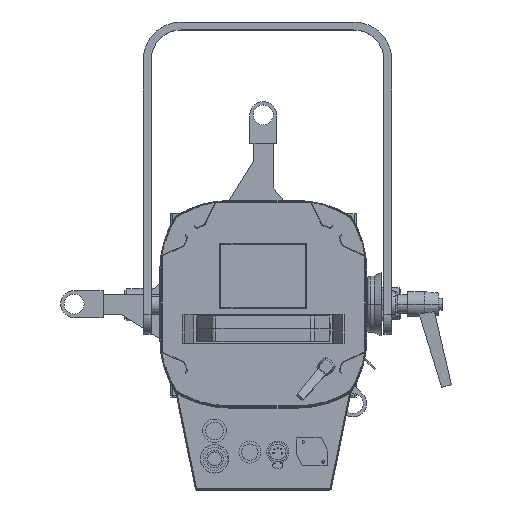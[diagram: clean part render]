
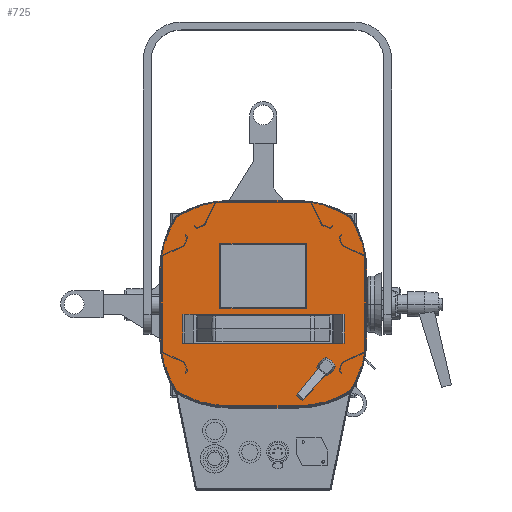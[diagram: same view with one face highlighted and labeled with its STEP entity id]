
A CAD part, top view. The second image highlights one B-rep face of the part: STEP entity #725.
In plain terms, the highlighted planar face has unit normal (0, 0, 1).
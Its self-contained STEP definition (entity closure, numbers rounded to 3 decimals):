
#152 = VERTEX_POINT ( 'NONE', #7696 ) ;
#234 = AXIS2_PLACEMENT_3D ( 'NONE', #22896, #818, #10650 ) ;
#435 = EDGE_CURVE ( 'NONE', #27005, #16409, #22929, .T. ) ;
#448 = DIRECTION ( 'NONE',  ( 1., 0., 0. ) ) ;
#713 = DIRECTION ( 'NONE',  ( -1., 0., 0. ) ) ;
#725 = ADVANCED_FACE ( 'NONE', ( #27910, #22736 ), #31847, .F. ) ;
#816 = VERTEX_POINT ( 'NONE', #21551 ) ;
#818 = DIRECTION ( 'NONE',  ( 0., 0., -1. ) ) ;
#1223 = DIRECTION ( 'NONE',  ( 1., 0., 0. ) ) ;
#1467 = DIRECTION ( 'NONE',  ( 1., 0., 0. ) ) ;
#1886 = EDGE_CURVE ( 'NONE', #16409, #28842, #31120, .T. ) ;
#2003 = EDGE_CURVE ( 'NONE', #14155, #29782, #9190, .T. ) ;
#2128 = CARTESIAN_POINT ( 'NONE',  ( -33., 0., 227.1 ) ) ;
#2235 = ORIENTED_EDGE ( 'NONE', *, *, #6541, .F. ) ;
#2279 = EDGE_CURVE ( 'NONE', #152, #10225, #4176, .T. ) ;
#2707 = LINE ( 'NONE', #21883, #7850 ) ;
#2916 = CARTESIAN_POINT ( 'NONE',  ( 88.019, -88.019, 227.1 ) ) ;
#3214 = DIRECTION ( 'NONE',  ( 0., 1., 0. ) ) ;
#3324 = CARTESIAN_POINT ( 'NONE',  ( -103.8, -33., 227.1 ) ) ;
#3463 = CARTESIAN_POINT ( 'NONE',  ( 2.5, 60., 227.1 ) ) ;
#3632 = CARTESIAN_POINT ( 'NONE',  ( 42.5, -4., 227.1 ) ) ;
#3653 = LINE ( 'NONE', #13465, #20105 ) ;
#3745 = DIRECTION ( 'NONE',  ( -1., 0., 0. ) ) ;
#4011 = LINE ( 'NONE', #22853, #15275 ) ;
#4176 = LINE ( 'NONE', #13836, #13115 ) ;
#4178 = CIRCLE ( 'NONE', #16523, 103.8 ) ;
#4359 = CARTESIAN_POINT ( 'NONE',  ( 0., 33., 227.1 ) ) ;
#4474 = AXIS2_PLACEMENT_3D ( 'NONE', #2128, #21471, #21783 ) ;
#5056 = EDGE_CURVE ( 'NONE', #29782, #816, #27098, .T. ) ;
#5204 = EDGE_LOOP ( 'NONE', ( #2235, #27733, #15033, #5374, #25945, #28754, #18652, #26732, #20699, #11561, #12608, #16778 ) ) ;
#5374 = ORIENTED_EDGE ( 'NONE', *, *, #26343, .F. ) ;
#5769 = EDGE_CURVE ( 'NONE', #22666, #17862, #4011, .T. ) ;
#6158 = DIRECTION ( 'NONE',  ( 0., 0., -1. ) ) ;
#6541 = EDGE_CURVE ( 'NONE', #17862, #26321, #24770, .T. ) ;
#6552 = CIRCLE ( 'NONE', #25609, 103.8 ) ;
#6777 = EDGE_CURVE ( 'NONE', #19926, #17606, #29961, .T. ) ;
#6973 = CARTESIAN_POINT ( 'NONE',  ( 0., 33., 227.1 ) ) ;
#6980 = AXIS2_PLACEMENT_3D ( 'NONE', #6973, #16479, #26337 ) ;
#7592 = VERTEX_POINT ( 'NONE', #22148 ) ;
#7696 = CARTESIAN_POINT ( 'NONE',  ( -42.5, 60., 227.1 ) ) ;
#7793 = DIRECTION ( 'NONE',  ( 1., 0., 0. ) ) ;
#7829 = CARTESIAN_POINT ( 'NONE',  ( 103.8, 33., 227.1 ) ) ;
#7850 = VECTOR ( 'NONE', #448, 1000. ) ;
#8106 = CARTESIAN_POINT ( 'NONE',  ( 33., 0., 227.1 ) ) ;
#8214 = CARTESIAN_POINT ( 'NONE',  ( -103.8, -33., 227.1 ) ) ;
#8301 = CARTESIAN_POINT ( 'NONE',  ( -42.5, -4., 227.1 ) ) ;
#9190 = LINE ( 'NONE', #13870, #17739 ) ;
#9824 = AXIS2_PLACEMENT_3D ( 'NONE', #25661, #6158, #3745 ) ;
#10218 = VECTOR ( 'NONE', #713, 1000. ) ;
#10225 = VERTEX_POINT ( 'NONE', #8301 ) ;
#10650 = DIRECTION ( 'NONE',  ( 1., 0., 0. ) ) ;
#10683 = DIRECTION ( 'NONE',  ( 0., 0., -1. ) ) ;
#11303 = DIRECTION ( 'NONE',  ( 0., 0., -1. ) ) ;
#11443 = LINE ( 'NONE', #8214, #31384 ) ;
#11561 = ORIENTED_EDGE ( 'NONE', *, *, #5056, .F. ) ;
#12608 = ORIENTED_EDGE ( 'NONE', *, *, #2003, .F. ) ;
#12907 = DIRECTION ( 'NONE',  ( 0., 0., -1. ) ) ;
#12962 = ORIENTED_EDGE ( 'NONE', *, *, #14057, .F. ) ;
#13115 = VECTOR ( 'NONE', #23836, 1000. ) ;
#13154 = CARTESIAN_POINT ( 'NONE',  ( 103.8, -33., 227.1 ) ) ;
#13173 = DIRECTION ( 'NONE',  ( 0., -1., 0. ) ) ;
#13465 = CARTESIAN_POINT ( 'NONE',  ( 33., 103.8, 227.1 ) ) ;
#13836 = CARTESIAN_POINT ( 'NONE',  ( -42.5, 14., 227.1 ) ) ;
#13870 = CARTESIAN_POINT ( 'NONE',  ( 33., -103.8, 227.1 ) ) ;
#14057 = EDGE_CURVE ( 'NONE', #10225, #19926, #2707, .T. ) ;
#14155 = VERTEX_POINT ( 'NONE', #30104 ) ;
#14280 = CARTESIAN_POINT ( 'NONE',  ( -33., 103.8, 227.1 ) ) ;
#15033 = ORIENTED_EDGE ( 'NONE', *, *, #22172, .F. ) ;
#15275 = VECTOR ( 'NONE', #13173, 1000. ) ;
#15713 = VERTEX_POINT ( 'NONE', #22417 ) ;
#16409 = VERTEX_POINT ( 'NONE', #31206 ) ;
#16479 = DIRECTION ( 'NONE',  ( 0., 0., -1. ) ) ;
#16523 = AXIS2_PLACEMENT_3D ( 'NONE', #8106, #10683, #7793 ) ;
#16778 = ORIENTED_EDGE ( 'NONE', *, *, #31117, .F. ) ;
#17217 = DIRECTION ( 'NONE',  ( 0., 0., -1. ) ) ;
#17433 = CARTESIAN_POINT ( 'NONE',  ( 33., 0., 227.1 ) ) ;
#17606 = VERTEX_POINT ( 'NONE', #19164 ) ;
#17739 = VECTOR ( 'NONE', #26453, 1000. ) ;
#17771 = AXIS2_PLACEMENT_3D ( 'NONE', #23378, #28976, #24134 ) ;
#17862 = VERTEX_POINT ( 'NONE', #13154 ) ;
#18174 = ORIENTED_EDGE ( 'NONE', *, *, #19750, .F. ) ;
#18514 = CIRCLE ( 'NONE', #25216, 103.8 ) ;
#18652 = ORIENTED_EDGE ( 'NONE', *, *, #435, .F. ) ;
#19164 = CARTESIAN_POINT ( 'NONE',  ( 42.5, 60., 227.1 ) ) ;
#19750 = EDGE_CURVE ( 'NONE', #17606, #152, #27481, .T. ) ;
#19926 = VERTEX_POINT ( 'NONE', #3632 ) ;
#20105 = VECTOR ( 'NONE', #1223, 1000. ) ;
#20485 = CIRCLE ( 'NONE', #25158, 103.8 ) ;
#20699 = ORIENTED_EDGE ( 'NONE', *, *, #25227, .F. ) ;
#20807 = EDGE_CURVE ( 'NONE', #26967, #27005, #11443, .T. ) ;
#21237 = CARTESIAN_POINT ( 'NONE',  ( -33., -103.8, 227.1 ) ) ;
#21471 = DIRECTION ( 'NONE',  ( 0., 0., -1. ) ) ;
#21551 = CARTESIAN_POINT ( 'NONE',  ( -88.019, -88.019, 227.1 ) ) ;
#21783 = DIRECTION ( 'NONE',  ( -1., 0., 0. ) ) ;
#21883 = CARTESIAN_POINT ( 'NONE',  ( -42.5, -4., 227.1 ) ) ;
#22148 = CARTESIAN_POINT ( 'NONE',  ( 88.019, 88.019, 227.1 ) ) ;
#22172 = EDGE_CURVE ( 'NONE', #7592, #22666, #18514, .T. ) ;
#22417 = CARTESIAN_POINT ( 'NONE',  ( 33., 103.8, 227.1 ) ) ;
#22584 = DIRECTION ( 'NONE',  ( -1., 0., 0. ) ) ;
#22666 = VERTEX_POINT ( 'NONE', #7829 ) ;
#22736 = FACE_OUTER_BOUND ( 'NONE', #5204, .T. ) ;
#22853 = CARTESIAN_POINT ( 'NONE',  ( 103.8, -33., 227.1 ) ) ;
#22896 = CARTESIAN_POINT ( 'NONE',  ( -33., 0., 227.1 ) ) ;
#22929 = CIRCLE ( 'NONE', #6980, 103.8 ) ;
#23204 = DIRECTION ( 'NONE',  ( 0., 1., 0. ) ) ;
#23220 = EDGE_CURVE ( 'NONE', #28842, #15713, #3653, .T. ) ;
#23378 = CARTESIAN_POINT ( 'NONE',  ( 0., -33., 227.1 ) ) ;
#23794 = VECTOR ( 'NONE', #3214, 1000. ) ;
#23836 = DIRECTION ( 'NONE',  ( 0., -1., 0. ) ) ;
#24134 = DIRECTION ( 'NONE',  ( -1., 0., 0. ) ) ;
#24770 = CIRCLE ( 'NONE', #9824, 103.8 ) ;
#24974 = CARTESIAN_POINT ( 'NONE',  ( 42.5, 60., 227.1 ) ) ;
#25158 = AXIS2_PLACEMENT_3D ( 'NONE', #17433, #12907, #22584 ) ;
#25216 = AXIS2_PLACEMENT_3D ( 'NONE', #4359, #17217, #26748 ) ;
#25227 = EDGE_CURVE ( 'NONE', #816, #26967, #6552, .T. ) ;
#25502 = CARTESIAN_POINT ( 'NONE',  ( 0., -33., 227.1 ) ) ;
#25609 = AXIS2_PLACEMENT_3D ( 'NONE', #25502, #11303, #1467 ) ;
#25661 = CARTESIAN_POINT ( 'NONE',  ( 0., -33., 227.1 ) ) ;
#25945 = ORIENTED_EDGE ( 'NONE', *, *, #23220, .F. ) ;
#26321 = VERTEX_POINT ( 'NONE', #2916 ) ;
#26337 = DIRECTION ( 'NONE',  ( -1., 0., 0. ) ) ;
#26343 = EDGE_CURVE ( 'NONE', #15713, #7592, #20485, .T. ) ;
#26453 = DIRECTION ( 'NONE',  ( -1., 0., 0. ) ) ;
#26732 = ORIENTED_EDGE ( 'NONE', *, *, #20807, .F. ) ;
#26748 = DIRECTION ( 'NONE',  ( 1., 0., 0. ) ) ;
#26967 = VERTEX_POINT ( 'NONE', #3324 ) ;
#27005 = VERTEX_POINT ( 'NONE', #29913 ) ;
#27098 = CIRCLE ( 'NONE', #4474, 103.8 ) ;
#27481 = LINE ( 'NONE', #3463, #10218 ) ;
#27733 = ORIENTED_EDGE ( 'NONE', *, *, #5769, .F. ) ;
#27910 = FACE_BOUND ( 'NONE', #29963, .T. ) ;
#28754 = ORIENTED_EDGE ( 'NONE', *, *, #1886, .F. ) ;
#28842 = VERTEX_POINT ( 'NONE', #14280 ) ;
#28976 = DIRECTION ( 'NONE',  ( 0., 0., -1. ) ) ;
#29782 = VERTEX_POINT ( 'NONE', #21237 ) ;
#29913 = CARTESIAN_POINT ( 'NONE',  ( -103.8, 33., 227.1 ) ) ;
#29929 = ORIENTED_EDGE ( 'NONE', *, *, #2279, .F. ) ;
#29961 = LINE ( 'NONE', #24974, #23794 ) ;
#29963 = EDGE_LOOP ( 'NONE', ( #29929, #18174, #30035, #12962 ) ) ;
#30035 = ORIENTED_EDGE ( 'NONE', *, *, #6777, .F. ) ;
#30104 = CARTESIAN_POINT ( 'NONE',  ( 33., -103.8, 227.1 ) ) ;
#31117 = EDGE_CURVE ( 'NONE', #26321, #14155, #4178, .T. ) ;
#31120 = CIRCLE ( 'NONE', #234, 103.8 ) ;
#31206 = CARTESIAN_POINT ( 'NONE',  ( -88.019, 88.019, 227.1 ) ) ;
#31384 = VECTOR ( 'NONE', #23204, 1000. ) ;
#31847 = PLANE ( 'NONE',  #17771 ) ;
